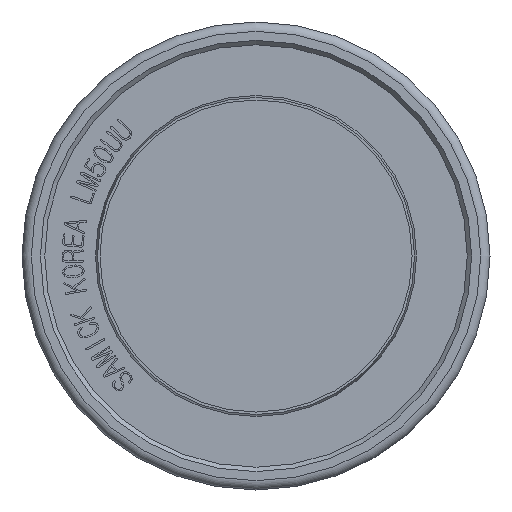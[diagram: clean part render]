
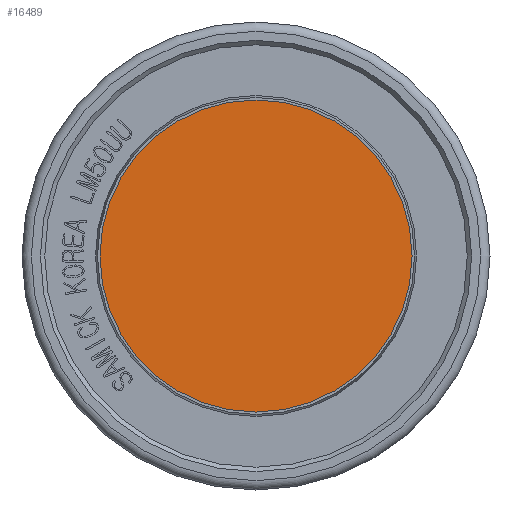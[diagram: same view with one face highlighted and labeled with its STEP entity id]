
A CAD part, front view. The second image highlights one B-rep face of the part: STEP entity #16489.
In plain terms, the highlighted planar face has unit normal (0, -1, 0).
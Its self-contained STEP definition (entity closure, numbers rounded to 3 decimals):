
#41=CIRCLE('',#16762,25.);
#351=PLANE('',#16764);
#1179=FACE_OUTER_BOUND('',#2066,.T.);
#2066=EDGE_LOOP('',(#14146));
#7098=VERTEX_POINT('',#28637);
#9461=EDGE_CURVE('',#7098,#7098,#41,.T.);
#14146=ORIENTED_EDGE('',*,*,#9461,.F.);
#16489=ADVANCED_FACE('',(#1179),#351,.T.);
#16762=AXIS2_PLACEMENT_3D('',#28639,#18399,#18400);
#16764=AXIS2_PLACEMENT_3D('',#28641,#18403,#18404);
#18399=DIRECTION('center_axis',(0.,1.,0.));
#18400=DIRECTION('ref_axis',(1.,0.,0.));
#18403=DIRECTION('center_axis',(0.,-1.,0.));
#18404=DIRECTION('ref_axis',(0.,0.,-1.));
#28637=CARTESIAN_POINT('',(-25.,-121.,0.));
#28639=CARTESIAN_POINT('Origin',(0.,-121.,0.));
#28641=CARTESIAN_POINT('Origin',(0.,-121.,0.));
